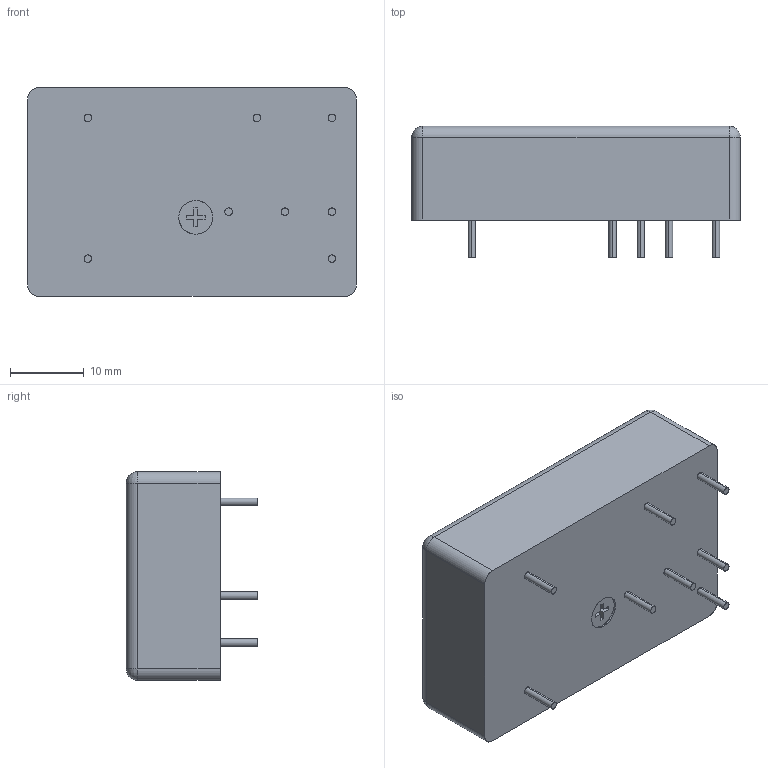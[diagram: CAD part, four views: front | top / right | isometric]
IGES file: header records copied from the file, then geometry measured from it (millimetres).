
Start section: SolidWorks IGES file using analytic representation for surfaces
Global section: file name: C:\Users\asmith\Desktop\~For Darol\Checked .igs Files\CA-Series\CA 02-20.IGS; native system: SolidWorks 2017; preprocessor: SolidWorks 2017; author: asmith; date: 171113.103732; units: inch
Bounding box: 44.45 x 17.78 x 28.19 mm (x, y, z)
Surface area: 4363.7 mm2 (no closed solid volume)
Topology: 0 solids, 0 shells, 58 faces, 568 edges, 564 vertices
Faces by surface type: revolution 30, bspline 28
